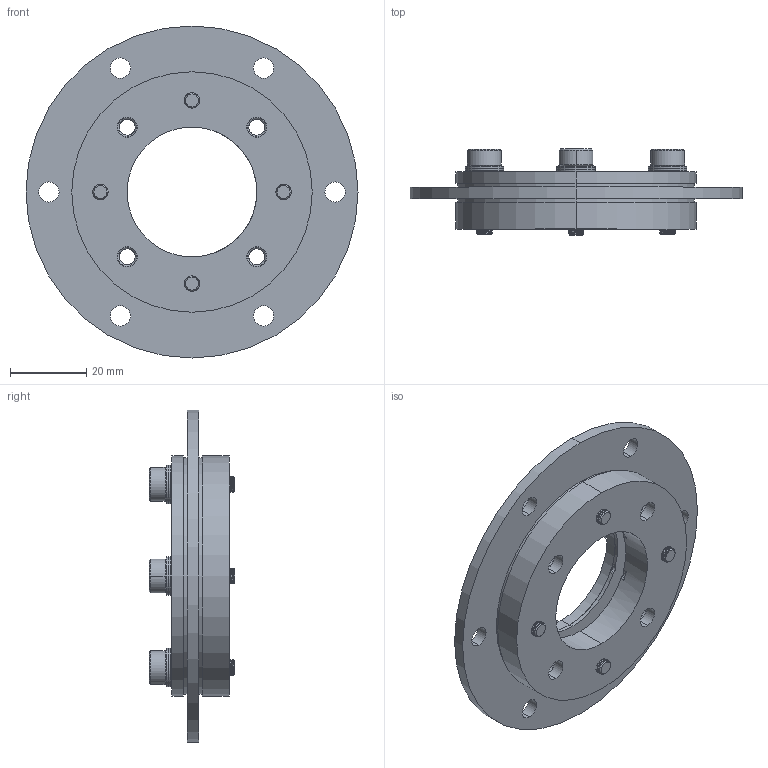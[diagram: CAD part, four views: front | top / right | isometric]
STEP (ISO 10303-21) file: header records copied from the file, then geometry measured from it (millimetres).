
FILE_DESCRIPTION (( 'STEP AP203' ), '1' );
FILE_NAME ('XG11-013-3.STEP', '2025-04-16T02:49:46', ( '微软用户' ), ( '微软中国' ), 'SwSTEP 2.0', 'SolidWorks 2024', '' );
FILE_SCHEMA (( 'CONFIG_CONTROL_DESIGN' ));
Length unit declared in the file: millimetre
Products named in the file (1): XG11-013-3
Bounding box: 87 x 22.5 x 87 mm (x, y, z)
Volume: 37525.4 mm3; surface area: 30541.6 mm2
Topology: 24 solids, 24 shells, 661 faces, 1653 edges, 1045 vertices
Faces by surface type: cylinder 346, cone 160, plane 107, bspline 48
Entity records: 48340 total; most frequent: CARTESIAN_POINT 33391, ORIENTED_EDGE 3306, DIRECTION 2717, EDGE_CURVE 1653, AXIS2_PLACEMENT_3D 1123, VERTEX_POINT 1045, EDGE_LOOP 766, B_SPLINE_CURVE_WITH_KNOTS 673
